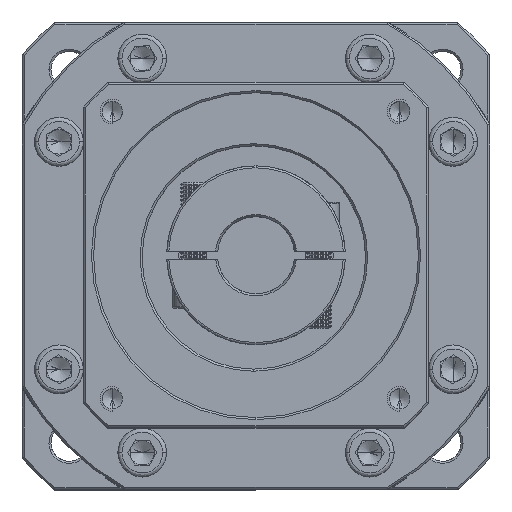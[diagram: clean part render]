
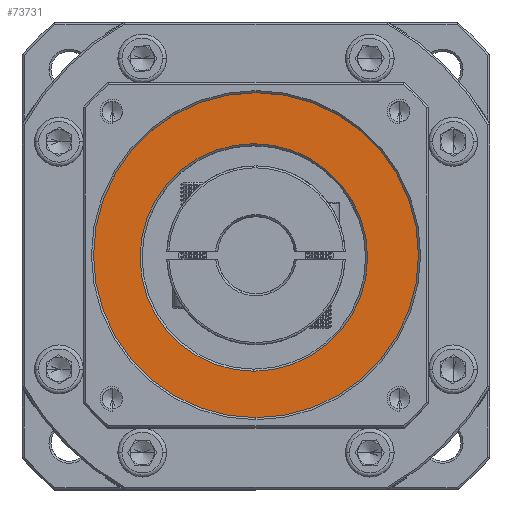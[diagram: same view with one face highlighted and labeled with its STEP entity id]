
A CAD part, top view. The second image highlights one B-rep face of the part: STEP entity #73731.
In plain terms, the highlighted planar face has unit normal (0, 0, 1).
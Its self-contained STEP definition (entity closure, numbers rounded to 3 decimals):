
#17192 = CIRCLE ( 'NONE', #66407, 40. ) ;
#18278 = DIRECTION ( 'NONE',  ( 0., 0., 1. ) ) ;
#21107 = FACE_OUTER_BOUND ( 'NONE', #113518, .T. ) ;
#22135 = EDGE_CURVE ( 'NONE', #79668, #126547, #71673, .T. ) ;
#23253 = DIRECTION ( 'NONE',  ( 0., 0., -1. ) ) ;
#23590 = CARTESIAN_POINT ( 'NONE',  ( 69.184, 76.666, 1.933 ) ) ;
#27895 = CARTESIAN_POINT ( 'NONE',  ( 68.649, 48.125, 1.933 ) ) ;
#34473 = ORIENTED_EDGE ( 'NONE', *, *, #74007, .T. ) ;
#44030 = DIRECTION ( 'NONE',  ( 0., 1., 0. ) ) ;
#44183 = DIRECTION ( 'NONE',  ( 0., 0., 1. ) ) ;
#49687 = VERTEX_POINT ( 'NONE', #129768 ) ;
#50743 = ORIENTED_EDGE ( 'NONE', *, *, #104858, .T. ) ;
#54103 = DIRECTION ( 'NONE',  ( 0., 1., 0. ) ) ;
#60739 = DIRECTION ( 'NONE',  ( 0., 1., 0. ) ) ;
#64791 = CARTESIAN_POINT ( 'NONE',  ( 68.649, 76.125, 1.933 ) ) ;
#66407 = AXIS2_PLACEMENT_3D ( 'NONE', #23590, #44183, #66985 ) ;
#66985 = DIRECTION ( 'NONE',  ( 0., 1., 0. ) ) ;
#67823 = FACE_BOUND ( 'NONE', #112764, .T. ) ;
#71673 = CIRCLE ( 'NONE', #126258, 40. ) ;
#73480 = DIRECTION ( 'NONE',  ( 0., 0., 1. ) ) ;
#73731 = ADVANCED_FACE ( 'NONE', ( #21107, #67823 ), #135623, .T. ) ;
#74007 = EDGE_CURVE ( 'NONE', #106251, #49687, #119318, .T. ) ;
#75785 = AXIS2_PLACEMENT_3D ( 'NONE', #96241, #106491, #44030 ) ;
#78479 = AXIS2_PLACEMENT_3D ( 'NONE', #64791, #23253, #54103 ) ;
#79668 = VERTEX_POINT ( 'NONE', #122229 ) ;
#85155 = CARTESIAN_POINT ( 'NONE',  ( 69.184, 76.666, 1.933 ) ) ;
#94285 = ORIENTED_EDGE ( 'NONE', *, *, #122451, .T. ) ;
#96241 = CARTESIAN_POINT ( 'NONE',  ( 68.649, 76.125, 1.933 ) ) ;
#102025 = CARTESIAN_POINT ( 'NONE',  ( 69.184, 36.666, 1.933 ) ) ;
#104858 = EDGE_CURVE ( 'NONE', #126547, #79668, #17192, .T. ) ;
#106251 = VERTEX_POINT ( 'NONE', #27895 ) ;
#106491 = DIRECTION ( 'NONE',  ( 0., 0., -1. ) ) ;
#106602 = DIRECTION ( 'NONE',  ( 0., 1., 0. ) ) ;
#112764 = EDGE_LOOP ( 'NONE', ( #94285, #34473 ) ) ;
#113518 = EDGE_LOOP ( 'NONE', ( #123725, #50743 ) ) ;
#116739 = CIRCLE ( 'NONE', #75785, 28. ) ;
#119318 = CIRCLE ( 'NONE', #78479, 28. ) ;
#122229 = CARTESIAN_POINT ( 'NONE',  ( 69.184, 116.666, 1.933 ) ) ;
#122451 = EDGE_CURVE ( 'NONE', #49687, #106251, #116739, .T. ) ;
#123725 = ORIENTED_EDGE ( 'NONE', *, *, #22135, .T. ) ;
#124596 = CARTESIAN_POINT ( 'NONE',  ( 69.184, 76.666, 1.933 ) ) ;
#126258 = AXIS2_PLACEMENT_3D ( 'NONE', #124596, #18278, #60739 ) ;
#126547 = VERTEX_POINT ( 'NONE', #102025 ) ;
#129768 = CARTESIAN_POINT ( 'NONE',  ( 68.649, 104.125, 1.933 ) ) ;
#133069 = AXIS2_PLACEMENT_3D ( 'NONE', #85155, #73480, #106602 ) ;
#135623 = PLANE ( 'NONE',  #133069 ) ;
